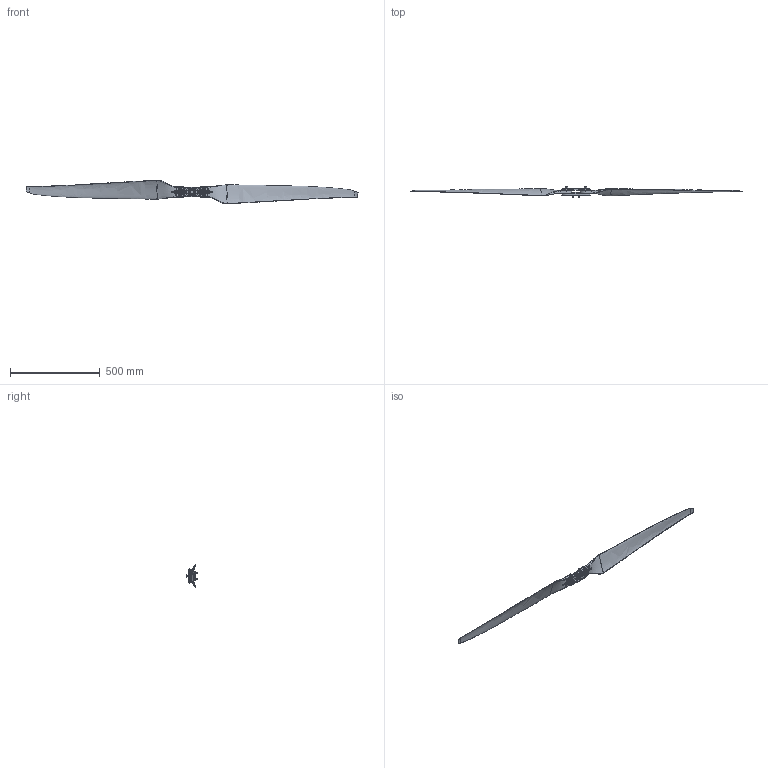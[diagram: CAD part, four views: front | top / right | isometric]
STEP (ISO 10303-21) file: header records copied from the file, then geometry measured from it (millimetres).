
FILE_DESCRIPTION (( 'STEP AP203' ), '1' );
FILE_NAME ('7327蔑珔蔑標CW.STEP', '2025-06-12T08:37:07', ( '' ), ( '' ), 'SwSTEP 2.0', 'SolidWorks 2021', '' );
FILE_SCHEMA (( 'CONFIG_CONTROL_DESIGN' ));
Length unit declared in the file: millimetre
Products named in the file (9): 折叠桨-HF7327-热固-A-CW-对外; 7327蔑珔蔑標CW; 124400065B0-垫圈-D44.8×D19.2×t1.5; 111350213A0-桨夹座-D19×105-黑色; 111350214A0-桨夹盖-D19×105-黑色; 104110637A0-螺钉-HM8x20-本色三组合; 104130293A0-垫片-D44.8×D19.2×t0.2-本色; 10415XXXXA0-销钉-D22×D19×31.5-本色; 104110712A0-螺钉-HM6×14-内六角圆柱头-本色
Assembly tree (20 placements, depth 2):
  7327蔑珔蔑標CW
    111350213A0-桨夹座-D19×105-黑色
    10415XXXXA0-销钉-D22×D19×31.5-本色  x2
    124400065B0-垫圈-D44.8×D19.2×t1.5  x4
    104110712A0-螺钉-HM6×14-内六角圆柱头-本色  x4
    111350214A0-桨夹盖-D19×105-黑色
    104110637A0-螺钉-HM8x20-本色三组合  x2
    104130293A0-垫片-D44.8×D19.2×t0.2-本色  x4
    折叠桨-HF7327-热固-A-CW-对外  x2
Bounding box: 1853.3 x 57.2 x 130.24 mm (x, y, z)
Volume: 1090705.3 mm3; surface area: 384855.4 mm2
Topology: 24 solids, 24 shells, 2689 faces, 7653 edges, 5061 vertices
Faces by surface type: plane 1420, cylinder 920, bspline 124, torus 106, cone 103, sphere 16
Entity records: 101263 total; most frequent: CARTESIAN_POINT 68534, ORIENTED_EDGE 7008, DIRECTION 6142, EDGE_CURVE 3504, VERTEX_POINT 2295, AXIS2_PLACEMENT_3D 2265, VECTOR 1612, LINE 1612
